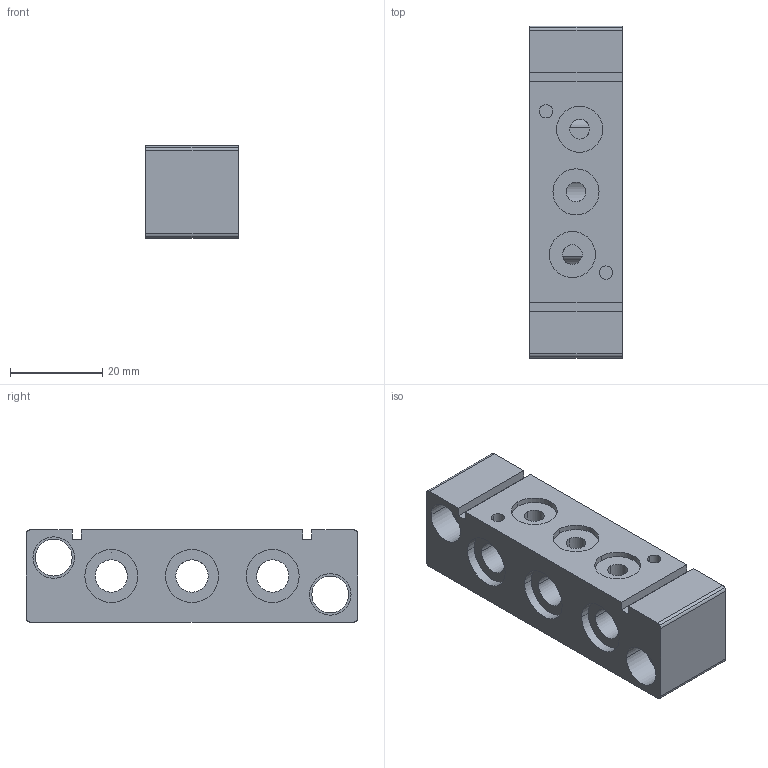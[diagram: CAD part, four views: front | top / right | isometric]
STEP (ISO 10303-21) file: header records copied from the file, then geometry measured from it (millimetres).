
FILE_DESCRIPTION((''),'2;1');
FILE_NAME('BM751.stp','2003-01-02T00:24:20',('Branislav Petkovic'),('AZ Pneumatica'),'AutoCAD STEP 2000i','AutoCAD 2000i','Via J. F. Kennedy, 26, 20020 Misinto (MI), ITALY');
FILE_SCHEMA(('CONFIG_CONTROL_DESIGN'));
Length unit declared in the file: millimetre
Products named in the file (2): BM751; PART1
Assembly tree (1 placements, depth 2):
  BM751
    PART1
Bounding box: 20 x 72 x 20 mm (x, y, z)
Surface area: 9104.2 mm2 (no closed solid volume)
Topology: 0 solids, 1 shells, 70 faces, 176 edges, 116 vertices
Faces by surface type: cylinder 44, plane 26
Entity records: 2413 total; most frequent: CARTESIAN_POINT 514, DIRECTION 400, ORIENTED_EDGE 352, EDGE_CURVE 176, AXIS2_PLACEMENT_3D 158, VERTEX_POINT 116, EDGE_LOOP 94, CIRCLE 86
